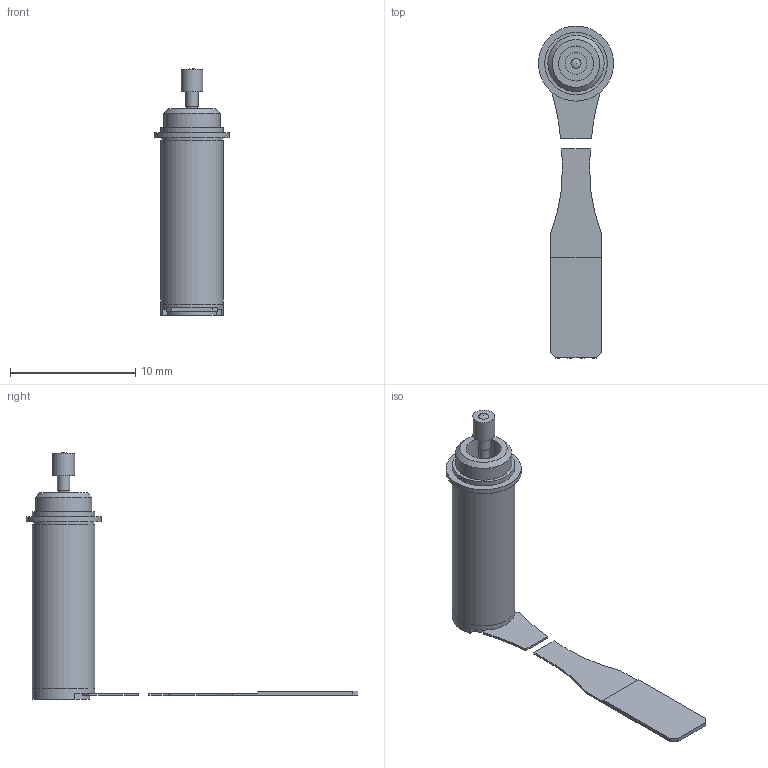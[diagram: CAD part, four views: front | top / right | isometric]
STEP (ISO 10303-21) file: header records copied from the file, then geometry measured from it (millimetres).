
FILE_DESCRIPTION(/* description */ (''),/* implementation_level */ '2;1');
FILE_NAME(/* name */ '0515C_B.stp',/* time_stamp */ '2017-07-14T08:03:38+02:00',/* author */ ('DR. FRITZ FAULHABER GmbH & Co. KG'),/* organization */ ('DR. FRITZ FAULHABER GmbH & Co. KG'),/* preprocessor_version */ 'ST-DEVELOPER v16',/* originating_system */ 'SIEMENS PLM Software NX 10.0',/* authorisation */ '');
FILE_SCHEMA (('AUTOMOTIVE_DESIGN { 1 0 10303 214 3 1 1 1 }'));
Length unit declared in the file: millimetre
Products named in the file (1): Alle_Motoren
Bounding box: 6 x 26.5 x 19.7 mm (x, y, z)
Volume: 329.2 mm3; surface area: 504.4 mm2
Topology: 2 solids, 2 shells, 83 faces, 200 edges, 133 vertices
Faces by surface type: plane 55, cylinder 19, extrusion 7, cone 1, sphere 1
Full cylindrical faces by diameter (mm): 0.8 x2, 1 x1, 1.75 x1, 2.8 x1, 4.5 x1, 4.8 x1, 4.999 x1, 5 x3, 6 x1
Entity records: 2501 total; most frequent: CARTESIAN_POINT 630, ORIENTED_EDGE 362, DIRECTION 356, EDGE_CURVE 181, VERTEX_POINT 128, AXIS2_PLACEMENT_3D 121, VECTOR 114, EDGE_LOOP 109
